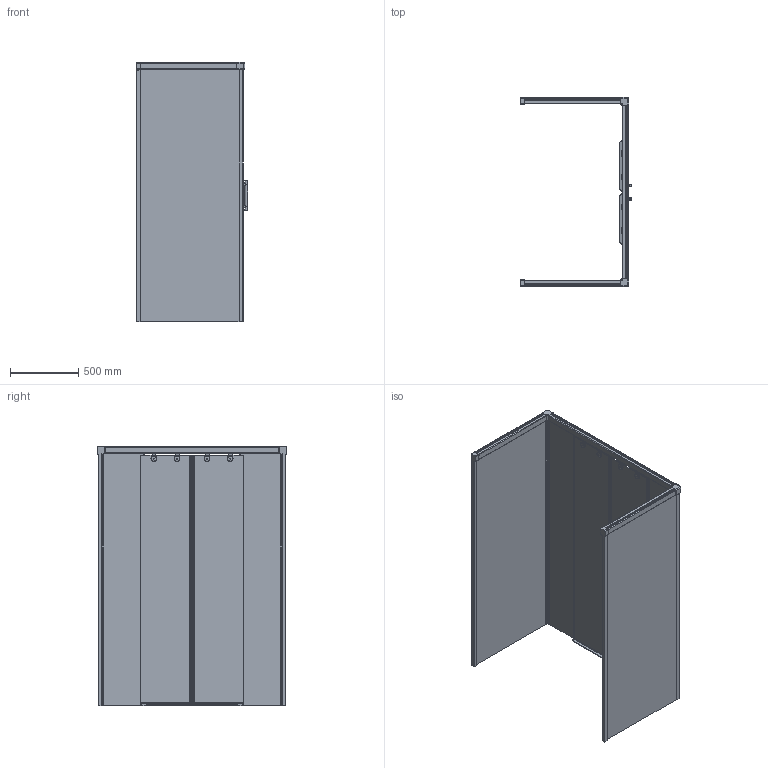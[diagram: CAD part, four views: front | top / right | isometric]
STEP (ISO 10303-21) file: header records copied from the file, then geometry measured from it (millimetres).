
FILE_DESCRIPTION(/* description */ (''),/* implementation_level */ '2;1');
FILE_NAME(/* name */ 'D:\4\777\!!! Slide\SLIDE RECTAN GK-866U\SLIDE RECTAN GK-866U-3D.stp',/* time_stamp */ '2018-03-20T10:35:45+03:00',/* author */ ('ChechurovS'),/* organization */ (''),/* preprocessor_version */ 'ST-DEVELOPER v15.2',/* originating_system */ 'Autodesk Inventor 2014',/* authorisation */ '');
FILE_SCHEMA (('CONFIG_CONTROL_DESIGN'));
Length unit declared in the file: millimetre
Products named in the file (1): SLIDE RECTAN GK-866U-3D
Bounding box: 816.4 x 1390 x 1901.5 mm (x, y, z)
Volume: 51479174.2 mm3; surface area: 12315113.7 mm2
Topology: 4 solids, 8 shells, 941 faces, 2627 edges, 1718 vertices
Faces by surface type: plane 566, cylinder 307, torus 38, bspline 26, cone 4
Full cylindrical faces by diameter (mm): 20 x6, 37 x8, 42 x8
Entity records: 31878 total; most frequent: CARTESIAN_POINT 6665, ORIENTED_EDGE 5146, DIRECTION 4953, EDGE_CURVE 2569, LINE 1761, VECTOR 1761, VERTEX_POINT 1702, AXIS2_PLACEMENT_3D 1596
